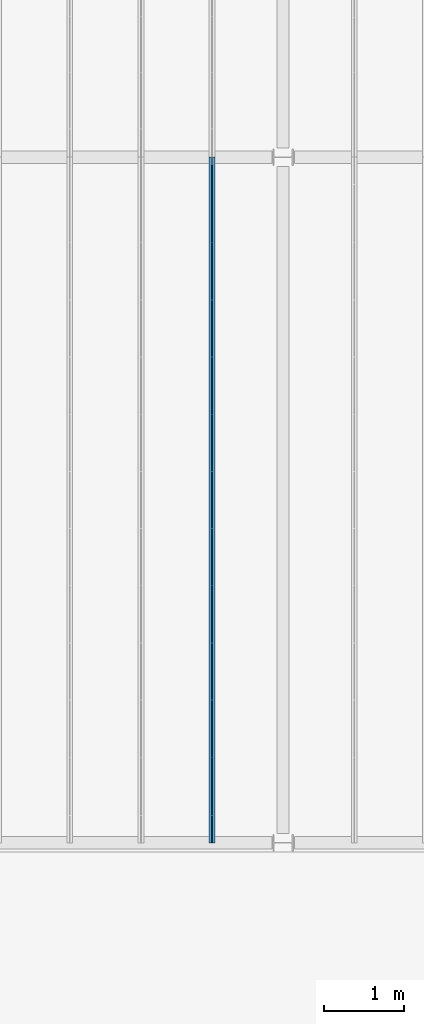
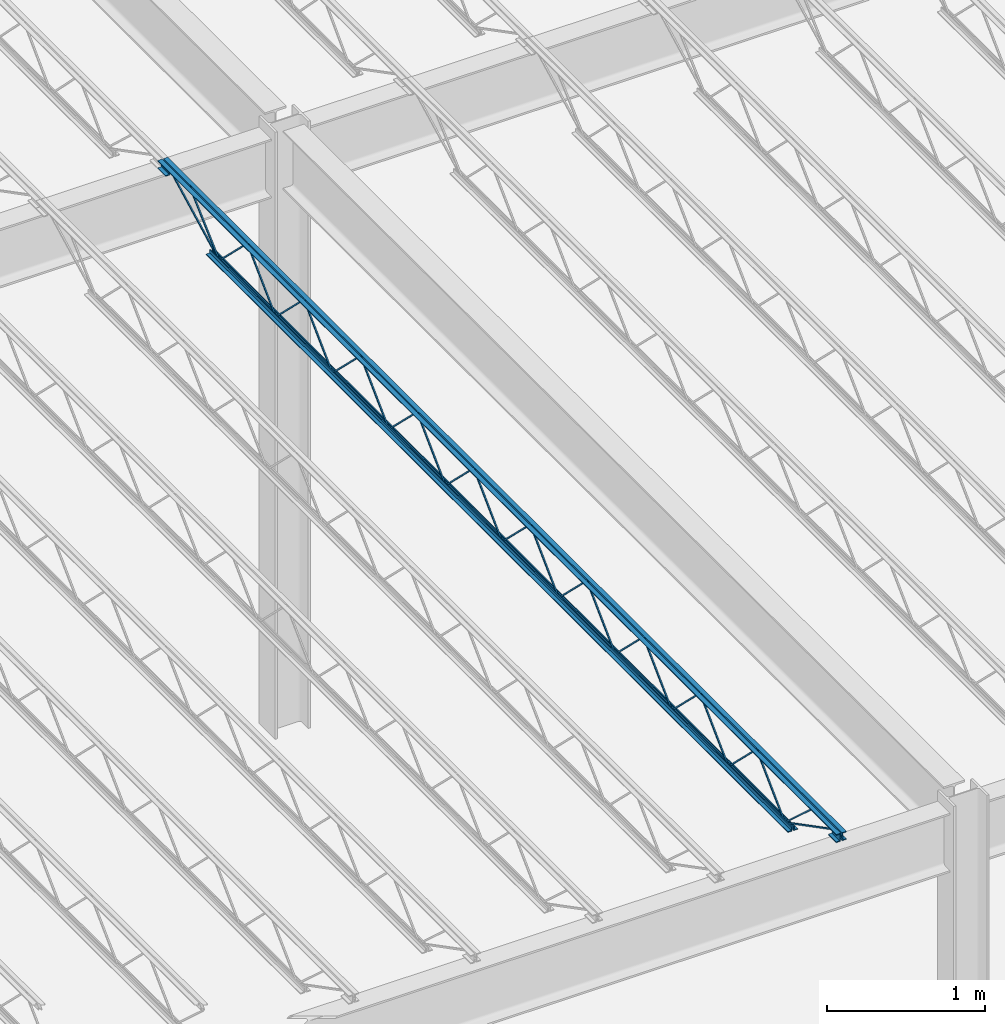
# One storey, part 32 of 119: 1 beam.
"""IFC2X3 building model written with IfcOpenShell, lengths in metres."""

import ifcopenshell
import ifcopenshell.guid

model = None  # the IFC model being written
_history = None  # IfcOwnerHistory: only IFC2X3 demands one
_inside = {}  # id of a spatial element -> (the spatial element, [elements in it])
_under = {}  # id of a project, library or spatial element -> (it, [spatial elements below it])
_declared = {}  # id of a project -> (the project, [libraries it declares])
_typed = {}  # id of a type object -> (the type object, [elements of that type])
_made_of = {}  # id of a material, layer set ... -> (it, [elements and type objects made of it])


def new_model(schema):
    """Start an empty IFC model of exactly this schema.

    Asked for "IFC4X3", IfcOpenShell would pick the latest addendum, in which some entities
    have other attributes; the version numbers below select the first issue.
    IFC2X3 requires an IfcOwnerHistory on every rooted entity: one is made here for all.
    """
    global model, _history
    if schema == "IFC4X3":
        model = ifcopenshell.file(schema_version=(4, 3, 0, 0))
    else:
        model = ifcopenshell.file(schema=schema)
    _inside.clear()
    _under.clear()
    _declared.clear()
    _typed.clear()
    _made_of.clear()
    _history = None
    if model.schema == "IFC2X3":
        org = make("IfcOrganization", Name="unknown")
        user = make(
            "IfcPersonAndOrganization",
            ThePerson=make("IfcPerson", FamilyName="unknown"),
            TheOrganization=org,
        )
        app = make(
            "IfcApplication",
            ApplicationDeveloper=org,
            Version="unknown",
            ApplicationFullName="unknown",
            ApplicationIdentifier="unknown",
        )
        _history = make(
            "IfcOwnerHistory",
            OwningUser=user,
            OwningApplication=app,
            ChangeAction="ADDED",
            CreationDate=0,
        )
    return model


def make(cls, **values):
    """One entity of the class cls with the attributes given. An attribute that is None is left unset."""
    return model.create_entity(
        cls, **{name: value for name, value in values.items() if value is not None}
    )


def entity(cls, *values):
    """Any entity or typed value of the class cls, its attributes in the order of the schema. None: left unset."""
    e = model.create_entity(cls)
    for i, value in enumerate(values):
        if value is not None:
            e[i] = value
    return e


def rooted(cls, **values):
    """An entity with a GlobalId (a new one), such as an element, a storey or a relation."""
    return make(cls, GlobalId=ifcopenshell.guid.new(), OwnerHistory=_history, **values)


def si_unit(unit_type, name, prefix=None):
    """IfcSIUnit, for example si_unit("LENGTHUNIT", "METRE", prefix="MILLI")."""
    return make("IfcSIUnit", UnitType=unit_type, Prefix=prefix, Name=name)


def converted_unit(unit_type, name, factor, base, dimensions=None, offset=None):
    """IfcConversionBasedUnit, such as the inch: factor (a typed value) times the base unit."""
    return make(
        "IfcConversionBasedUnit"
        if offset is None
        else "IfcConversionBasedUnitWithOffset",
        ConversionOffset=offset,
        Dimensions=None
        if dimensions is None
        else entity("IfcDimensionalExponents", *dimensions),
        UnitType=unit_type,
        Name=name,
        ConversionFactor=make(
            "IfcMeasureWithUnit", ValueComponent=factor, UnitComponent=base
        ),
    )


def assignment(units):
    """IfcUnitAssignment: the units of a project."""
    return None if units is None else make("IfcUnitAssignment", Units=units)


def point(xyz):
    """IfcCartesianPoint."""
    return None if xyz is None else make("IfcCartesianPoint", Coordinates=xyz)


def direction(xyz):
    """IfcDirection."""
    return None if xyz is None else make("IfcDirection", DirectionRatios=xyz)


def frame(location, z_axis=None, x_axis=None):
    """IfcAxis2Placement3D, a coordinate frame: its origin and axes. An axis left out is left unset."""
    return make(
        "IfcAxis2Placement3D",
        Location=point(location),
        Axis=direction(z_axis),
        RefDirection=direction(x_axis),
    )


def origin():
    """The frame at (0, 0, 0) with its axes left unset."""
    return frame((0.0, 0.0, 0.0))


def place(relative_to, where):
    """IfcLocalPlacement: puts the frame where relative to a parent placement (None: the world)."""
    return make(
        "IfcLocalPlacement", PlacementRelTo=relative_to, RelativePlacement=where
    )


def context(
    kind, dimensions, precision=None, world=None, true_north=None, identifier=None
):
    """IfcGeometricRepresentationContext, for example the 3D "Model" context."""
    return make(
        "IfcGeometricRepresentationContext",
        ContextIdentifier=identifier,
        ContextType=kind,
        CoordinateSpaceDimension=dimensions,
        Precision=precision,
        WorldCoordinateSystem=world,
        TrueNorth=true_north,
    )


def project(units=None, contexts=None):
    """IfcProject with its units and contexts."""
    return rooted(
        "IfcProject",
        Name="project",
        RepresentationContexts=contexts,
        UnitsInContext=assignment(units),
    )


def spatial(cls, under=None, at=None, **own):
    """A site, building, storey or space (cls), placed at a placement, below another one or the project."""
    s = rooted(cls, ObjectPlacement=at, **own)
    if under is not None:
        _under.setdefault(under.id(), (under, []))[1].append(s)
    return s


def faces_of(points, faces, orient=None, outer=None):
    """IfcFace entities. A face is a list of loops; a loop is a list of indices into points, from 0.

    orient and outer hold one flag for each loop. By default every Orientation is true, the
    first loop of a face is its IfcFaceOuterBound and the others are IfcFaceBound.
    """
    made = []
    for i, loops in enumerate(faces):
        bounds = []
        for j, loop in enumerate(loops):
            is_outer = j == 0 if outer is None else outer[i][j]
            bounds.append(
                make(
                    "IfcFaceOuterBound" if is_outer else "IfcFaceBound",
                    Bound=make("IfcPolyLoop", Polygon=[points[k] for k in loop]),
                    Orientation=True if orient is None else orient[i][j],
                )
            )
        made.append(make("IfcFace", Bounds=bounds))
    return made


def face_set(faces, orient=None, outer=None):
    """The faces of one IfcConnectedFaceSet. surface_model builds it on its shared points."""
    return ("IfcConnectedFaceSet", faces, orient, outer)


def surface_model(cls, points, shells):
    """IfcFaceBasedSurfaceModel or IfcShellBasedSurfaceModel (cls): surfaces that need not close."""
    shared = [point(p) for p in points]
    made = [make(c, CfsFaces=faces_of(shared, fs, o, b)) for c, fs, o, b in shells]
    if cls == "IfcFaceBasedSurfaceModel":
        return make(cls, FbsmFaces=made)
    return make(cls, SbsmBoundary=made)


def shape(context_of_items, identifier, shape_type, items):
    """IfcShapeRepresentation: the items that make up one representation, for example the "Body"."""
    return make(
        "IfcShapeRepresentation",
        ContextOfItems=context_of_items,
        RepresentationIdentifier=identifier,
        RepresentationType=shape_type,
        Items=items,
    )


def made_of(thing, what):
    """Note that an element or type object is made of a material, layer set ...; save() writes the relation."""
    if what is not None:
        _made_of.setdefault(what.id(), (what, []))[1].append(thing)
    return thing


def element(
    cls,
    number,
    at=None,
    inside=None,
    cuts=None,
    type_object=None,
    material=None,
    context=None,
    identifier="Body",
    shape_type=None,
    held_by="IfcProductDefinitionShape",
    body=None,
    shapes=None,
    **own,
):
    """One element of the class cls, such as IfcWall. Its Tag is "e" and its number.

    at: its placement. inside: the storey or other place that contains it. cuts: it is an
    opening in that element (IfcRelVoidsElement). A single representation is given by context,
    identifier, shape_type and body (its items); several are given by shapes. held_by: the class
    of the entity that holds the representations. save() writes the other relations.
    """
    e = rooted(cls, Tag="e%d" % number, ObjectPlacement=at, **own)
    if body is not None:
        shapes = [shape(context, identifier, shape_type, body)]
    if shapes is not None:
        e.Representation = make(held_by, Representations=shapes)
    if inside is not None:
        _inside.setdefault(inside.id(), (inside, []))[1].append(e)
    if cuts is not None:
        rooted(
            "IfcRelVoidsElement", RelatingBuildingElement=cuts, RelatedOpeningElement=e
        )
    if type_object is not None:
        _typed.setdefault(type_object.id(), (type_object, []))[1].append(e)
    return made_of(e, material)


def aggregate(whole, parts):
    """IfcRelAggregates: a whole, such as a stair, and the parts it consists of."""
    return rooted("IfcRelAggregates", RelatingObject=whole, RelatedObjects=parts)


def save(model, path):
    """Write the relations noted so far, then the file.

    IfcRelAggregates (storeys below a building ...), IfcRelContainedInSpatialStructure (elements
    in a storey), IfcRelDefinesByType, IfcRelAssociatesMaterial and IfcRelDeclares: one each for
    every whole, place, type object, material and project.
    """
    for whole, parts in _under.values():
        aggregate(whole, parts)
    for where, things in _inside.values():
        rooted(
            "IfcRelContainedInSpatialStructure",
            RelatedElements=things,
            RelatingStructure=where,
        )
    for kind, things in _typed.values():
        rooted("IfcRelDefinesByType", RelatedObjects=things, RelatingType=kind)
    for what, things in _made_of.values():
        rooted("IfcRelAssociatesMaterial", RelatedObjects=things, RelatingMaterial=what)
    for by, libraries in _declared.values():
        rooted("IfcRelDeclares", RelatingContext=by, RelatedDefinitions=libraries)
    model.write(path)


model = new_model("IFC2X3")

# Units and contexts
model_context = context("Model", 3, precision=1e-09, world=origin())
plan_context = context("Plan", 3, precision=1e-09, world=origin())
ifc_project = project(units=[si_unit("LENGTHUNIT", "METRE"), si_unit("AREAUNIT", "SQUARE_METRE"), si_unit("VOLUMEUNIT", "CUBIC_METRE"), converted_unit("PLANEANGLEUNIT", "DEGREE", entity("IfcRatioMeasure", 0.01745329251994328), si_unit("PLANEANGLEUNIT", "RADIAN"), dimensions=[0, 0, 0, 0, 0, 0, 0]), si_unit("TIMEUNIT", "SECOND")], contexts=[model_context, plan_context])

# Site, building, storey
site_placement = place(None, origin())
site = spatial("IfcSite", under=ifc_project, at=site_placement, Name="Default", CompositionType="ELEMENT")
building_placement = place(site_placement, origin())
building = spatial("IfcBuilding", under=site, at=building_placement, CompositionType="ELEMENT")
storey_placement = place(building_placement, frame((0.0, 0.0, 4.570000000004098)))
storey = spatial("IfcBuildingStorey", under=building, at=storey_placement, Name="Second Floor", CompositionType="ELEMENT", Elevation=4.570000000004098)

# Beam
beam_placement = place(storey_placement, frame((-34.47550000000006, 10.04000000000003, 4.323999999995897)))
element("IfcBeam", 1, at=beam_placement, inside=storey, Name="M_K-Series Bar Joist-Rod Web:14K1:14K1", ObjectType="M_K-Series Bar Joist-Rod Web:14K1", context=model_context, shape_type="SurfaceModel", body=[
    surface_model("IfcFaceBasedSurfaceModel", [(0.04150000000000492, 6.428799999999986, 0.01110000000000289), (0.03200000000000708, 6.428799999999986, 0.01110000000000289), (0.03200000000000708, 6.428799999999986, 0.001600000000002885), (0.04150000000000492, 6.428799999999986, 0.001600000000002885), (0.03200000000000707, 6.430038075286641, 0.01110000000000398), (0.04150000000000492, 6.430038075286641, 0.01110000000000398), (0.03200000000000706, 6.433911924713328, 0.001600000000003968), (0.03200000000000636, 6.784861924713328, 0.3449000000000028), (0.03200000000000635, 6.78733807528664, 0.3449000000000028), (0.03200000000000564, 7.138288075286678, 0.001600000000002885), (0.03200000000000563, 7.143399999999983, 0.001600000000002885), (0.03200000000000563, 7.143399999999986, 0.01110000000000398), (0.03200000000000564, 7.142161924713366, 0.01110000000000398), (0.03200000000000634, 6.79121192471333, 0.3544000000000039), (0.03200000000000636, 6.780988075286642, 0.3544000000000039), (0.04150000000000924, 6.433911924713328, 0.001600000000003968), (0.04150000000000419, 6.784861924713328, 0.3449000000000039), (0.04150000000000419, 6.787338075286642, 0.3449000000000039), (0.04150000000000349, 7.138288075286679, 0.001600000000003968), (0.04150000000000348, 7.143399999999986, 0.001600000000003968), (0.04150000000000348, 7.143399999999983, 0.01110000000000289), (0.04150000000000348, 7.142161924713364, 0.01110000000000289), (0.04150000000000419, 6.791211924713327, 0.3544000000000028), (0.0415000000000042, 6.780988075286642, 0.3544000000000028), (0.04150000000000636, 5.714199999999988, 0.01110000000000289), (0.03200000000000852, 5.714199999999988, 0.01110000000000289), (0.03200000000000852, 5.714199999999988, 0.001600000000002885), (0.04150000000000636, 5.714199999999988, 0.001600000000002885), (0.03200000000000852, 5.715438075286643, 0.01110000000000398), (0.04150000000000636, 5.715438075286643, 0.01110000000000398), (0.03200000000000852, 5.71931192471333, 0.001600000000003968), (0.0320000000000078, 6.07026192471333, 0.3449000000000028), (0.0320000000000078, 6.072738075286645, 0.3449000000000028), (0.03200000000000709, 6.423688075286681, 0.001600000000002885), (0.03200000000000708, 6.428799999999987, 0.001600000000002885), (0.03200000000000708, 6.428799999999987, 0.01110000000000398), (0.03200000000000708, 6.427561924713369, 0.01110000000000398), (0.03200000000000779, 6.076611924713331, 0.3544000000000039), (0.03200000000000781, 6.066388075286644, 0.3544000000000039), (0.04150000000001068, 5.71931192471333, 0.001600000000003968), (0.04150000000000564, 6.07026192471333, 0.3449000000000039), (0.04150000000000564, 6.072738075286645, 0.3449000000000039), (0.04150000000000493, 6.423688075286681, 0.001600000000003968), (0.04150000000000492, 6.428799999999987, 0.001600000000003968), (0.04150000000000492, 6.428799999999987, 0.01110000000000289), (0.04150000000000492, 6.427561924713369, 0.01110000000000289), (0.04150000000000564, 6.076611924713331, 0.3544000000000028), (0.04150000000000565, 6.066388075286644, 0.3544000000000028), (0.04150000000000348, 4.999599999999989, 0.01110000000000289), (0.03200000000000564, 4.999599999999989, 0.01110000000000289), (0.03200000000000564, 4.999599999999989, 0.001600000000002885), (0.04150000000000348, 4.999599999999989, 0.001600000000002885), (0.03200000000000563, 5.000838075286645, 0.01110000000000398), (0.04150000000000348, 5.000838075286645, 0.01110000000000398), (0.03200000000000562, 5.004711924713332, 0.001600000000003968), (0.03200000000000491, 5.355661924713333, 0.3449000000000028), (0.03200000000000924, 5.358138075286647, 0.3449000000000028), (0.03200000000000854, 5.709088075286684, 0.001600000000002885), (0.03200000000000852, 5.714199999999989, 0.001600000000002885), (0.03200000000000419, 5.714199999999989, 0.01110000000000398), (0.03200000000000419, 5.712961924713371, 0.01110000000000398), (0.03200000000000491, 5.362011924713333, 0.3544000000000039), (0.03200000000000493, 5.351788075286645, 0.3544000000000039), (0.0415000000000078, 5.004711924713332, 0.001600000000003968), (0.04150000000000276, 5.355661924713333, 0.3449000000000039), (0.04150000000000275, 5.358138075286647, 0.3449000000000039), (0.04150000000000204, 5.709088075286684, 0.001600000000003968), (0.04150000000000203, 5.714199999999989, 0.001600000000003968), (0.04150000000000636, 5.714199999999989, 0.01110000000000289), (0.04150000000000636, 5.712961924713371, 0.01110000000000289), (0.04150000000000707, 5.362011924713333, 0.3544000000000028), (0.04150000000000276, 5.351788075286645, 0.3544000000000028), (0.04150000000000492, 4.284999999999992, 0.01110000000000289), (0.03200000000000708, 4.284999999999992, 0.01110000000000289), (0.03200000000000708, 4.284999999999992, 0.001600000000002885), (0.04150000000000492, 4.284999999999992, 0.001600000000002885), (0.03200000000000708, 4.286238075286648, 0.01110000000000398), (0.04150000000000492, 4.286238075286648, 0.01110000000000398), (0.03200000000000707, 4.290111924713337, 0.001600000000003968), (0.03200000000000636, 4.641061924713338, 0.3449000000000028), (0.03200000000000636, 4.643538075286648, 0.3449000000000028), (0.03200000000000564, 4.994488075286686, 0.001600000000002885), (0.03200000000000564, 4.999599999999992, 0.001600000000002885), (0.03200000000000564, 4.999599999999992, 0.01110000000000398), (0.03200000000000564, 4.998361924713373, 0.01110000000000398), (0.03200000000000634, 4.647411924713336, 0.3544000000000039), (0.03200000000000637, 4.637188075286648, 0.3544000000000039), (0.04150000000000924, 4.290111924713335, 0.001600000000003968), (0.0415000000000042, 4.641061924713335, 0.3449000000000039), (0.04150000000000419, 4.643538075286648, 0.3449000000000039), (0.04150000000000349, 4.994488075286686, 0.001600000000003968), (0.04150000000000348, 4.999599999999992, 0.001600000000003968), (0.04150000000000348, 4.999599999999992, 0.01110000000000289), (0.04150000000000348, 4.998361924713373, 0.01110000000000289), (0.04150000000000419, 4.647411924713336, 0.3544000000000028), (0.04150000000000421, 4.637188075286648, 0.3544000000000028), (0.04150000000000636, 3.570399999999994, 0.01110000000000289), (0.03200000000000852, 3.570399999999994, 0.01110000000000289), (0.03200000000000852, 3.570399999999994, 0.001600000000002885), (0.04150000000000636, 3.570399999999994, 0.001600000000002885), (0.03200000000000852, 3.57163807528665, 0.01110000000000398), (0.04150000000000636, 3.57163807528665, 0.01110000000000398), (0.03200000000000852, 3.575511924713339, 0.001600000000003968), (0.03200000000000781, 3.926461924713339, 0.3449000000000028), (0.0320000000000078, 3.928938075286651, 0.3449000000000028), (0.03200000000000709, 4.279888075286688, 0.001600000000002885), (0.03200000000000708, 4.284999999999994, 0.001600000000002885), (0.03200000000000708, 4.284999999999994, 0.01110000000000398), (0.03200000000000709, 4.283761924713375, 0.01110000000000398), (0.03200000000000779, 3.932811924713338, 0.3544000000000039), (0.03200000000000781, 3.92258807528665, 0.3544000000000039), (0.04150000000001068, 3.575511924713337, 0.001600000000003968), (0.04150000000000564, 3.926461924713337, 0.3449000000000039), (0.04150000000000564, 3.928938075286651, 0.3449000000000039), (0.04150000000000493, 4.279888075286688, 0.001600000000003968), (0.04150000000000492, 4.284999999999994, 0.001600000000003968), (0.04150000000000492, 4.284999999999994, 0.01110000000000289), (0.04150000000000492, 4.283761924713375, 0.01110000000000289), (0.04150000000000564, 3.93281192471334, 0.3544000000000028), (0.04150000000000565, 3.922588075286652, 0.3544000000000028), (0.04150000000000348, 2.855799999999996, 0.01110000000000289), (0.03200000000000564, 2.855799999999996, 0.01110000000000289), (0.03200000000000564, 2.855799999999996, 0.001600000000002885), (0.04150000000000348, 2.855799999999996, 0.001600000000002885), (0.03200000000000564, 2.857038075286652, 0.01110000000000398), (0.04150000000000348, 2.857038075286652, 0.01110000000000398), (0.03200000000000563, 2.860911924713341, 0.001600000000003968), (0.03200000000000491, 3.211861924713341, 0.3449000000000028), (0.03200000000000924, 3.214338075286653, 0.3449000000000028), (0.03200000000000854, 3.56528807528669, 0.001600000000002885), (0.03200000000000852, 3.570399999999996, 0.001600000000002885), (0.03200000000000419, 3.570399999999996, 0.01110000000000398), (0.0320000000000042, 3.569161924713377, 0.01110000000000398), (0.03200000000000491, 3.21821192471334, 0.3544000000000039), (0.03200000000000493, 3.207988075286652, 0.3544000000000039), (0.0415000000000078, 2.860911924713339, 0.001600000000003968), (0.04150000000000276, 3.21186192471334, 0.3449000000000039), (0.04150000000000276, 3.214338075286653, 0.3449000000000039), (0.04150000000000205, 3.56528807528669, 0.001600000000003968), (0.04150000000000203, 3.570399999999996, 0.001600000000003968), (0.04150000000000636, 3.570399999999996, 0.01110000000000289), (0.04150000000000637, 3.569161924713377, 0.01110000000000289), (0.04150000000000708, 3.218211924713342, 0.3544000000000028), (0.04150000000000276, 3.207988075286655, 0.3544000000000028), (0.04150000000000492, 2.1412, 0.01110000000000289), (0.03200000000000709, 2.1412, 0.01110000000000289), (0.03200000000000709, 2.1412, 0.001600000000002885), (0.04150000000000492, 2.1412, 0.001600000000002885), (0.03200000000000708, 2.142438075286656, 0.01110000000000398), (0.04150000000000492, 2.142438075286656, 0.01110000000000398), (0.03200000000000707, 2.146311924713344, 0.001600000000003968), (0.03200000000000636, 2.497261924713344, 0.3449000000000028), (0.03200000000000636, 2.499738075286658, 0.3449000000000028), (0.03200000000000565, 2.850688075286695, 0.001600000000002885), (0.03200000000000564, 2.8558, 0.001600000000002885), (0.03200000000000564, 2.8558, 0.01110000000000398), (0.03200000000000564, 2.854561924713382, 0.01110000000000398), (0.03200000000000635, 2.503611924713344, 0.3544000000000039), (0.03200000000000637, 2.493388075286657, 0.3544000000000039), (0.04150000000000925, 2.146311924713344, 0.001600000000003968), (0.0415000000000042, 2.497261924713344, 0.3449000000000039), (0.04150000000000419, 2.499738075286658, 0.3449000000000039), (0.04150000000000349, 2.850688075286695, 0.001600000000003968), (0.04150000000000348, 2.8558, 0.001600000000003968), (0.04150000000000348, 2.8558, 0.01110000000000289), (0.04150000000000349, 2.854561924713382, 0.01110000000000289), (0.04150000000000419, 2.503611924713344, 0.3544000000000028), (0.04150000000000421, 2.493388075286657, 0.3544000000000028), (0.04150000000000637, 1.426600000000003, 0.01110000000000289), (0.03200000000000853, 1.426600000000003, 0.01110000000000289), (0.03200000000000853, 1.426600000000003, 0.001600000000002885), (0.04150000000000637, 1.426600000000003, 0.001600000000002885), (0.03200000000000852, 1.427838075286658, 0.01110000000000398), (0.04150000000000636, 1.427838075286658, 0.01110000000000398), (0.03200000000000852, 1.431711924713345, 0.001600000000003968), (0.03200000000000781, 1.782661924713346, 0.3449000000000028), (0.0320000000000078, 1.78513807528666, 0.3449000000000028), (0.03200000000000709, 2.136088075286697, 0.001600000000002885), (0.03200000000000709, 2.141200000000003, 0.001600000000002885), (0.03200000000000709, 2.141200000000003, 0.01110000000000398), (0.03200000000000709, 2.139961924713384, 0.01110000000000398), (0.03200000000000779, 1.789011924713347, 0.3544000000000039), (0.03200000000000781, 1.778788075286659, 0.3544000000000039), (0.0415000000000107, 1.431711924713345, 0.001600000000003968), (0.04150000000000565, 1.782661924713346, 0.3449000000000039), (0.04150000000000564, 1.78513807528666, 0.3449000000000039), (0.04150000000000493, 2.136088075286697, 0.001600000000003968), (0.04150000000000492, 2.141200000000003, 0.001600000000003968), (0.04150000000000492, 2.141200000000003, 0.01110000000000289), (0.04150000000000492, 2.139961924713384, 0.01110000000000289), (0.04150000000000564, 1.789011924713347, 0.3544000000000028), (0.04150000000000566, 1.778788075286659, 0.3544000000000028), (0.04150000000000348, 7.143399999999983, 0.01109999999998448), (0.03200000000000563, 7.143399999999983, 0.01109999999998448), (0.03200000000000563, 7.143399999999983, 0.001599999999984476), (0.04150000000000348, 7.143399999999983, 0.001599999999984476), (0.03200000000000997, 7.144638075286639, 0.01109999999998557), (0.0415000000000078, 7.144638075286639, 0.01109999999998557), (0.03200000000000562, 7.148511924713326, 0.001599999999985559), (0.03200000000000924, 7.499461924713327, 0.3448999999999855), (0.03200000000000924, 7.501938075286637, 0.3448999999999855), (0.03200000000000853, 7.852888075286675, 0.001599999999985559), (0.03200000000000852, 7.857999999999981, 0.001599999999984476), (0.03200000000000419, 7.857999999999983, 0.01109999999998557), (0.03200000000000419, 7.856761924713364, 0.01109999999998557), (0.0320000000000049, 7.505811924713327, 0.3543999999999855), (0.03200000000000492, 7.495588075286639, 0.3543999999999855), (0.04150000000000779, 7.148511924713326, 0.001599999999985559), (0.04150000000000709, 7.499461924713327, 0.3448999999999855), (0.04150000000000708, 7.50193807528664, 0.3448999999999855), (0.04150000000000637, 7.852888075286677, 0.001599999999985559), (0.04150000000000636, 7.857999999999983, 0.001599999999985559), (0.04150000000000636, 7.857999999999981, 0.01109999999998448), (0.0415000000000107, 7.856761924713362, 0.01109999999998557), (0.0415000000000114, 7.505811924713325, 0.3543999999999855), (0.04150000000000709, 7.495588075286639, 0.3543999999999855), (0.04150000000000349, 0.712000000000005, 0.01110000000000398), (0.03200000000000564, 0.712000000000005, 0.01110000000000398), (0.03200000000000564, 0.712000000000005, 0.001600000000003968), (0.04150000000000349, 0.712000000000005, 0.001600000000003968), (0.03200000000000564, 0.7132380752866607, 0.01110000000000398), (0.04150000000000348, 0.7132380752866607, 0.01110000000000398), (0.03200000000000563, 0.7171119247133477, 0.001600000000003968), (0.03200000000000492, 1.068061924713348, 0.3449000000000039), (0.03200000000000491, 1.070538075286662, 0.3449000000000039), (0.03200000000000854, 1.421488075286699, 0.001600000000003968), (0.03200000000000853, 1.426600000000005, 0.001600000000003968), (0.0320000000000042, 1.426600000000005, 0.01110000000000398), (0.0320000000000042, 1.425361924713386, 0.01110000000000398), (0.03200000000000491, 1.074411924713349, 0.3544000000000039), (0.03200000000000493, 1.064188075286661, 0.3544000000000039), (0.0415000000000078, 0.7171119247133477, 0.001600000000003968), (0.04150000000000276, 1.068061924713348, 0.3449000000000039), (0.04150000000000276, 1.070538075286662, 0.3449000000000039), (0.04150000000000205, 1.421488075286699, 0.001600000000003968), (0.04150000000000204, 1.426600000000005, 0.001600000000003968), (0.04150000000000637, 1.426600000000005, 0.01110000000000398), (0.04150000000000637, 1.425361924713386, 0.01110000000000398), (0.04150000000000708, 1.074411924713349, 0.3544000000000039), (0.04150000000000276, 1.064188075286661, 0.3544000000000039), (0.03200000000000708, 8.57, 0.3559999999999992), (0.0, 8.57, 0.3559999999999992), (0.0, 8.57, 0.3494999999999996), (0.02550000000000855, 8.57, 0.3494999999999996), (0.02550000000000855, 8.57, 0.3239999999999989), (0.03200000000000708, 8.57, 0.3239999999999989), (0.04150000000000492, 8.57, 0.3559999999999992), (0.04150000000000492, 8.57, 0.3239999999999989), (0.04800000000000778, 8.57, 0.3239999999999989), (0.04800000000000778, 8.57, 0.3494999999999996), (0.07350000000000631, 8.57, 0.3494999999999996), (0.07350000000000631, 8.57, 0.3559999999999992), (0.03200000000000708, 0.0, 0.3559999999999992), (0.0, 0.0, 0.3559999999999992), (0.0, 0.0, 0.3494999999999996), (0.02550000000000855, 0.0, 0.3494999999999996), (0.02550000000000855, 0.0, 0.3239999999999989), (0.03200000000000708, 0.0, 0.3239999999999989), (0.04150000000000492, 0.0, 0.3559999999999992), (0.04150000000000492, 0.0, 0.3239999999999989), (0.04800000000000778, 0.0, 0.3239999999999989), (0.04800000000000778, 0.0, 0.3494999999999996), (0.07350000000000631, 0.0, 0.3494999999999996), (0.07350000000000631, 0.0, 0.3559999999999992), (0.04150000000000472, 0.09999999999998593, 0.2924999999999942), (0.0735000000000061, 0.09999999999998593, 0.2924999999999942), (0.0735000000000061, 0.09999999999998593, 0.2989999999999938), (0.04800000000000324, 0.09999999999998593, 0.2989999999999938), (0.04800000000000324, 0.09999999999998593, 0.3239999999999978), (0.04150000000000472, 0.09999999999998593, 0.3239999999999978), (0.0, 0.09999999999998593, 0.2924999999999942), (0.03200000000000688, 0.09999999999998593, 0.2924999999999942), (0.03200000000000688, 0.09999999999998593, 0.3239999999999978), (0.02550000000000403, 0.09999999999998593, 0.3239999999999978), (0.02550000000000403, 0.09999999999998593, 0.2989999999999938), (0.0, 0.09999999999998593, 0.2989999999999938), (0.04150000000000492, 0.0, 0.2924999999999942), (0.07350000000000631, 0.0, 0.2924999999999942), (0.07350000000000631, 0.0, 0.2989999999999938), (0.04800000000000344, 0.0, 0.2989999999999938), (0.04800000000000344, 0.0, 0.3239999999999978), (0.04150000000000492, 0.0, 0.3239999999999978), (0.0, 0.0, 0.2924999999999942), (0.03200000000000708, 0.0, 0.2924999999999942), (0.03200000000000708, 0.0, 0.3239999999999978), (0.02550000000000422, 0.0, 0.3239999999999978), (0.02550000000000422, 0.0, 0.2989999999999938), (0.0, 0.0, 0.2989999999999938), (0.03200000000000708, 8.57, 0.2924999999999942), (0.03200000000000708, 8.57, 0.3239999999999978), (0.02550000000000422, 8.57, 0.3239999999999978), (0.02550000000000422, 8.57, 0.2989999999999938), (0.0, 8.57, 0.2989999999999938), (0.0, 8.57, 0.2924999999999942), (0.04150000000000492, 8.57, 0.2924999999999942), (0.07350000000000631, 8.57, 0.2924999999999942), (0.07350000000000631, 8.57, 0.2989999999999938), (0.04800000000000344, 8.57, 0.2989999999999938), (0.04800000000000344, 8.57, 0.3239999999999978), (0.04150000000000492, 8.57, 0.3239999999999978), (0.03200000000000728, 8.47, 0.2924999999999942), (0.03200000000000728, 8.47, 0.3239999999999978), (0.02550000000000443, 8.47, 0.3239999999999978), (0.02550000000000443, 8.47, 0.2989999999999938), (0.0, 8.47, 0.2989999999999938), (0.0, 8.47, 0.2924999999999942), (0.04150000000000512, 8.47, 0.2924999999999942), (0.07350000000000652, 8.47, 0.2924999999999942), (0.07350000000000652, 8.47, 0.2989999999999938), (0.04800000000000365, 8.47, 0.2989999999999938), (0.04800000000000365, 8.47, 0.3239999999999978), (0.04150000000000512, 8.47, 0.3239999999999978), (0.03200000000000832, 7.958000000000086, 0.0), (0.03200000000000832, 7.958000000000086, 0.03199999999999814), (0.0255000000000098, 7.958000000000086, 0.03199999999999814), (0.0255000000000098, 7.958000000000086, 0.006499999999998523), (0.0, 7.958000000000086, 0.006499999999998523), (0.0, 7.958000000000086, 0.0), (0.04150000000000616, 7.958000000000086, 0.0), (0.07350000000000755, 7.958000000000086, 0.0), (0.07350000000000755, 7.958000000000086, 0.006499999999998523), (0.04800000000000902, 7.958000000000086, 0.006499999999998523), (0.04800000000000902, 7.958000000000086, 0.03199999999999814), (0.04150000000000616, 7.958000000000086, 0.03199999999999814), (0.03200000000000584, 0.6120000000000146, 0.0), (0.03200000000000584, 0.6120000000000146, 0.03199999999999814), (0.02550000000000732, 0.6120000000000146, 0.03199999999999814), (0.02550000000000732, 0.6120000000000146, 0.006499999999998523), (0.0, 0.6120000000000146, 0.006499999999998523), (0.0, 0.6120000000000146, 0.0), (0.04150000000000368, 0.6120000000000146, 0.0), (0.07350000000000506, 0.6120000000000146, 0.0), (0.07350000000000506, 0.6120000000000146, 0.006499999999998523), (0.04800000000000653, 0.6120000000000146, 0.006499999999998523), (0.04800000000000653, 0.6120000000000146, 0.03199999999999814), (0.04150000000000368, 0.6120000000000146, 0.03199999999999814), (0.04150000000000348, 0.7141882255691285, 0.01056594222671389), (0.03200000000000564, 0.7141882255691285, 0.01056594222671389), (0.03200000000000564, 0.7098117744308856, 0.002134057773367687), (0.04150000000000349, 0.7098117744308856, 0.00213405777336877), (0.04150000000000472, 0.1011592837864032, 0.3287499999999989), (0.04150000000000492, 0.0, 0.3287499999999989), (0.04150000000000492, 0.0, 0.3192499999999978), (0.04150000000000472, 0.09884071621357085, 0.3192499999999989), (0.03200000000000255, 0.09884071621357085, 0.3192499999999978), (0.03200000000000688, 0.1011592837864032, 0.3287499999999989), (0.03200000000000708, 0.0, 0.3287499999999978), (0.03200000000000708, 0.0, 0.3192499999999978), (0.04150000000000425, 0.3347428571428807, 0.3417000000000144), (0.0320000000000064, 0.3347428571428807, 0.3417000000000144), (0.0320000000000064, 0.3347428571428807, 0.3322000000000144), (0.04150000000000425, 0.3347428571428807, 0.3322000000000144), (0.03200000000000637, 0.349275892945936, 0.3417000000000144), (0.04150000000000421, 0.349275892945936, 0.3417000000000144), (0.03200000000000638, 0.3456098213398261, 0.3322000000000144), (0.03200000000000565, 0.7088091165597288, 0.002831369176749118), (0.03200000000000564, 0.7151908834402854, 0.009868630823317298), (0.04150000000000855, 0.3456098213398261, 0.3322000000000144), (0.04150000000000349, 0.7088091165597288, 0.002831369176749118), (0.04150000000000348, 0.7151908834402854, 0.009868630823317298), (0.04150000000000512, 8.472188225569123, 0.3197840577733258), (0.04150000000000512, 8.467811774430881, 0.328215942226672), (0.03200000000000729, 8.467811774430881, 0.328215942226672), (0.03200000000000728, 8.472188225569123, 0.3197840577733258), (0.04150000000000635, 7.860188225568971, 0.002134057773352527), (0.04150000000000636, 7.855811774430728, 0.01056594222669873), (0.03200000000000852, 7.855811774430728, 0.01056594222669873), (0.03200000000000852, 7.860188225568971, 0.002134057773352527), (0.0415000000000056, 8.233036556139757, 0.3461600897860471), (0.04150000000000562, 8.22659201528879, 0.3531399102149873), (0.03200000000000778, 8.22659201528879, 0.3531399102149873), (0.03200000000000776, 8.233036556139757, 0.3461600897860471), (0.04150000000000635, 7.861222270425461, 0.00286008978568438), (0.04150000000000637, 7.854777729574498, 0.009839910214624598), (0.03200000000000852, 7.854777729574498, 0.009839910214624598), (0.03200000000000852, 7.861222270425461, 0.00286008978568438)], [face_set([[[0, 1, 2, 3]], [[1, 4, 5, 0]], [[2, 6, 7, 8, 9, 10, 11, 12, 13, 14, 4, 1]], [[3, 2, 6, 15]], [[0, 3, 15, 16, 17, 18, 19, 20, 21, 22, 23, 5]], [[4, 5, 23, 14]], [[15, 16, 7, 6]], [[14, 13, 22, 23]], [[16, 7, 8, 17]], [[13, 12, 21, 22]], [[17, 8, 9, 18]], [[20, 11, 10, 19]], [[12, 11, 20, 21]], [[18, 9, 10, 19]]]), face_set([[[24, 25, 26, 27]], [[25, 28, 29, 24]], [[26, 30, 31, 32, 33, 34, 35, 36, 37, 38, 28, 25]], [[27, 26, 30, 39]], [[24, 27, 39, 40, 41, 42, 43, 44, 45, 46, 47, 29]], [[28, 29, 47, 38]], [[39, 40, 31, 30]], [[38, 37, 46, 47]], [[40, 31, 32, 41]], [[37, 36, 45, 46]], [[41, 32, 33, 42]], [[44, 35, 34, 43]], [[36, 35, 44, 45]], [[42, 33, 34, 43]]]), face_set([[[48, 49, 50, 51]], [[49, 52, 53, 48]], [[50, 54, 55, 56, 57, 58, 59, 60, 61, 62, 52, 49]], [[51, 50, 54, 63]], [[48, 51, 63, 64, 65, 66, 67, 68, 69, 70, 71, 53]], [[52, 53, 71, 62]], [[63, 64, 55, 54]], [[62, 61, 70, 71]], [[64, 55, 56, 65]], [[61, 60, 69, 70]], [[65, 56, 57, 66]], [[68, 59, 58, 67]], [[60, 59, 68, 69]], [[66, 57, 58, 67]]]), face_set([[[72, 73, 74, 75]], [[73, 76, 77, 72]], [[74, 78, 79, 80, 81, 82, 83, 84, 85, 86, 76, 73]], [[75, 74, 78, 87]], [[72, 75, 87, 88, 89, 90, 91, 92, 93, 94, 95, 77]], [[76, 77, 95, 86]], [[87, 88, 79, 78]], [[86, 85, 94, 95]], [[88, 79, 80, 89]], [[85, 84, 93, 94]], [[89, 80, 81, 90]], [[92, 83, 82, 91]], [[84, 83, 92, 93]], [[90, 81, 82, 91]]]), face_set([[[96, 97, 98, 99]], [[97, 100, 101, 96]], [[98, 102, 103, 104, 105, 106, 107, 108, 109, 110, 100, 97]], [[99, 98, 102, 111]], [[96, 99, 111, 112, 113, 114, 115, 116, 117, 118, 119, 101]], [[100, 101, 119, 110]], [[111, 112, 103, 102]], [[110, 109, 118, 119]], [[112, 103, 104, 113]], [[109, 108, 117, 118]], [[113, 104, 105, 114]], [[116, 107, 106, 115]], [[108, 107, 116, 117]], [[114, 105, 106, 115]]]), face_set([[[120, 121, 122, 123]], [[121, 124, 125, 120]], [[122, 126, 127, 128, 129, 130, 131, 132, 133, 134, 124, 121]], [[123, 122, 126, 135]], [[120, 123, 135, 136, 137, 138, 139, 140, 141, 142, 143, 125]], [[124, 125, 143, 134]], [[135, 136, 127, 126]], [[134, 133, 142, 143]], [[136, 127, 128, 137]], [[133, 132, 141, 142]], [[137, 128, 129, 138]], [[140, 131, 130, 139]], [[132, 131, 140, 141]], [[138, 129, 130, 139]]]), face_set([[[144, 145, 146, 147]], [[145, 148, 149, 144]], [[146, 150, 151, 152, 153, 154, 155, 156, 157, 158, 148, 145]], [[147, 146, 150, 159]], [[144, 147, 159, 160, 161, 162, 163, 164, 165, 166, 167, 149]], [[148, 149, 167, 158]], [[159, 160, 151, 150]], [[158, 157, 166, 167]], [[160, 151, 152, 161]], [[157, 156, 165, 166]], [[161, 152, 153, 162]], [[164, 155, 154, 163]], [[156, 155, 164, 165]], [[162, 153, 154, 163]]]), face_set([[[168, 169, 170, 171]], [[169, 172, 173, 168]], [[170, 174, 175, 176, 177, 178, 179, 180, 181, 182, 172, 169]], [[171, 170, 174, 183]], [[168, 171, 183, 184, 185, 186, 187, 188, 189, 190, 191, 173]], [[172, 173, 191, 182]], [[183, 184, 175, 174]], [[182, 181, 190, 191]], [[184, 175, 176, 185]], [[181, 180, 189, 190]], [[185, 176, 177, 186]], [[188, 179, 178, 187]], [[180, 179, 188, 189]], [[186, 177, 178, 187]]]), face_set([[[192, 193, 194, 195]], [[193, 196, 197, 192]], [[194, 198, 199, 200, 201, 202, 203, 204, 205, 206, 196, 193]], [[195, 194, 198, 207]], [[192, 195, 207, 208, 209, 210, 211, 212, 213, 214, 215, 197]], [[196, 197, 215, 206]], [[207, 208, 199, 198]], [[206, 205, 214, 215]], [[208, 199, 200, 209]], [[205, 204, 213, 214]], [[209, 200, 201, 210]], [[212, 203, 202, 211]], [[204, 203, 212, 213]], [[210, 201, 202, 211]]]), face_set([[[216, 217, 218, 219]], [[217, 220, 221, 216]], [[218, 222, 223, 224, 225, 226, 227, 228, 229, 230, 220, 217]], [[219, 218, 222, 231]], [[216, 219, 231, 232, 233, 234, 235, 236, 237, 238, 239, 221]], [[220, 221, 239, 230]], [[231, 232, 223, 222]], [[230, 229, 238, 239]], [[232, 223, 224, 233]], [[229, 228, 237, 238]], [[233, 224, 225, 234]], [[236, 227, 226, 235]], [[228, 227, 236, 237]], [[234, 225, 226, 235]]]), face_set([[[240, 241, 242, 243, 244, 245]], [[246, 247, 248, 249, 250, 251]], [[252, 253, 254, 255, 256, 257]], [[258, 259, 260, 261, 262, 263]], [[245, 240, 252, 257]], [[244, 245, 257, 256]], [[243, 255, 256, 244]], [[242, 243, 255, 254]], [[241, 253, 254, 242]], [[240, 252, 253, 241]], [[251, 263, 258, 246]], [[250, 251, 263, 262]], [[249, 250, 262, 261]], [[248, 249, 261, 260]], [[247, 248, 260, 259]], [[246, 258, 259, 247]]]), face_set([[[264, 265, 266, 267, 268, 269]], [[270, 271, 272, 273, 274, 275]], [[276, 277, 278, 279, 280, 281]], [[282, 283, 284, 285, 286, 287]], [[269, 281, 276, 264]], [[268, 280, 281, 269]], [[267, 268, 280, 279]], [[266, 278, 279, 267]], [[265, 266, 278, 277]], [[264, 265, 277, 276]], [[275, 287, 282, 270]], [[274, 286, 287, 275]], [[273, 285, 286, 274]], [[272, 284, 285, 273]], [[271, 272, 284, 283]], [[270, 271, 283, 282]]]), face_set([[[288, 289, 290, 291, 292, 293]], [[294, 295, 296, 297, 298, 299]], [[300, 301, 302, 303, 304, 305]], [[306, 307, 308, 309, 310, 311]], [[293, 288, 300, 305]], [[292, 304, 305, 293]], [[291, 303, 304, 292]], [[290, 302, 303, 291]], [[289, 301, 302, 290]], [[288, 289, 301, 300]], [[299, 311, 306, 294]], [[298, 310, 311, 299]], [[297, 298, 310, 309]], [[296, 308, 309, 297]], [[295, 296, 308, 307]], [[294, 295, 307, 306]]]), face_set([[[312, 313, 314, 315, 316, 317]], [[318, 319, 320, 321, 322, 323]], [[324, 325, 326, 327, 328, 329]], [[330, 331, 332, 333, 334, 335]], [[317, 312, 324, 329]], [[316, 328, 329, 317]], [[315, 327, 328, 316]], [[314, 326, 327, 315]], [[313, 325, 326, 314]], [[312, 313, 325, 324]], [[323, 335, 330, 318]], [[322, 334, 335, 323]], [[321, 322, 334, 333]], [[320, 332, 333, 321]], [[319, 320, 332, 331]], [[318, 319, 331, 330]]]), face_set([[[336, 337, 338, 339]], [[339, 336, 340, 341, 342, 343]], [[338, 339, 343, 344]], [[337, 345, 346, 347, 344, 338]], [[336, 340, 345, 337]], [[341, 346, 347, 342]], [[344, 343, 342, 347]], [[340, 341, 346, 345]]]), face_set([[[348, 349, 350, 351]], [[349, 352, 353, 348]], [[350, 354, 355, 356, 352, 349]], [[351, 350, 354, 357]], [[348, 351, 357, 358, 359, 353]], [[359, 356, 355, 358]], [[352, 356, 359, 353]], [[357, 354, 355, 358]]]), face_set([[[360, 361, 362, 363]], [[364, 365, 366, 367]], [[363, 360, 364, 367]], [[362, 366, 367, 363]], [[361, 365, 366, 362]], [[360, 361, 365, 364]]]), face_set([[[368, 369, 370, 371]], [[372, 373, 374, 375]], [[371, 375, 372, 368]], [[370, 374, 375, 371]], [[369, 370, 374, 373]], [[368, 369, 373, 372]]])]),
])

save(model, "model.ifc")
